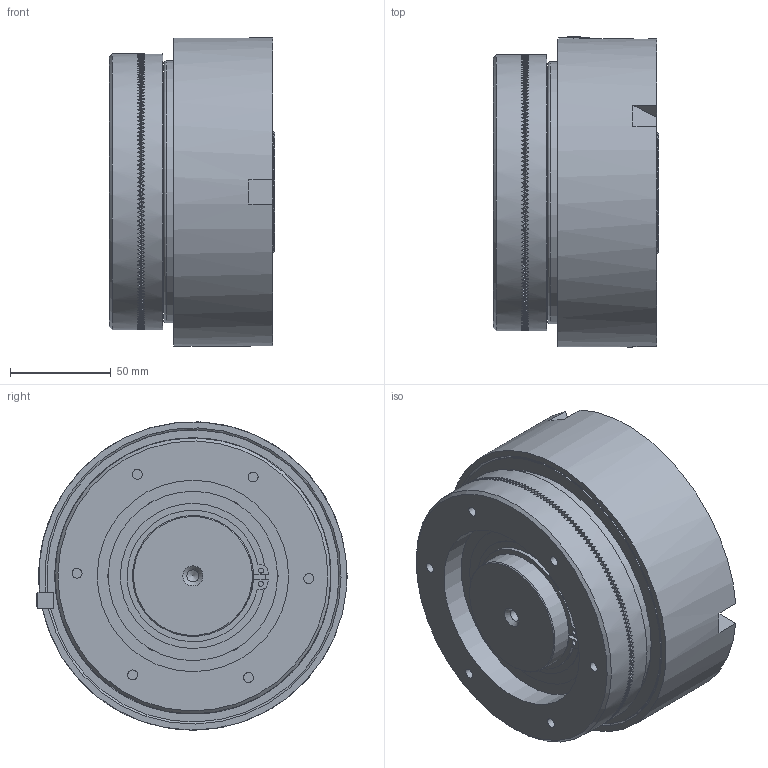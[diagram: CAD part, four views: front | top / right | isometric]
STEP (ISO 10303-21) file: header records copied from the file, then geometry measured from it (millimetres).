
FILE_DESCRIPTION(/* description */ (''),/* implementation_level */ '2;1');
FILE_NAME(/* name */ '\\Srv-tecnico\DATI\UFFICIO TECNICO\ARCHIVIO INVENTOR\DISEGNI\UFFICIO TECNICO\03_Friz_Oleodinamiche e Pneumatiche_Cilindro_Statico\03_25 DP\03_25_04_01 DP-04\03_25_04_01 INNESTO PNEUM. DP 04_Substitute_5.stp',/* time_stamp */ '2015-03-03T15:42:56+01:00',/* author */ ('ivan'),/* organization */ (''),/* preprocessor_version */ 'ST-DEVELOPER v15.6',/* originating_system */ 'Autodesk Inventor 2015',/* authorisation */ '');
FILE_SCHEMA (('AUTOMOTIVE_DESIGN { 1 0 10303 214 3 1 1 }'));
Products named in the file (1): 03_25_04_01 INNESTO PNEUM.  DP 04_Substitute_5
Bounding box: 82 x 153.9 x 152.93 mm (x, y, z)
Volume: 1039308.9 mm3; surface area: 319083.4 mm2
Topology: 19 solids, 19 shells, 2452 faces, 7255 edges, 4826 vertices
Faces by surface type: plane 1725, cylinder 443, torus 239, sphere 23, cone 16, bspline 6
Full cylindrical faces by diameter (mm): 2.5 x4, 3.242 x1, 4 x1, 4.917 x6, 5 x1, 6 x2, 6.5 x1, 7 x7, 11.445 x1, 57 x2, 59.5 x2, 60 x6, 71.2 x2, 72 x1, 83.8 x2, 84 x1, 85 x3, 95 x4, 96 x1, 97 x1, 99.4 x2, 100 x3, 109.5 x1, 115.6 x2, 118 x1, 120 x1, 126 x3, 130 x2, 137 x2, 140 x2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
Entity records: 99002 total; most frequent: CARTESIAN_POINT 30997, DIRECTION 15758, ORIENTED_EDGE 14118, EDGE_CURVE 7057, AXIS2_PLACEMENT_3D 6833, VERTEX_POINT 4748, EDGE_LOOP 2643, ADVANCED_FACE 2452
